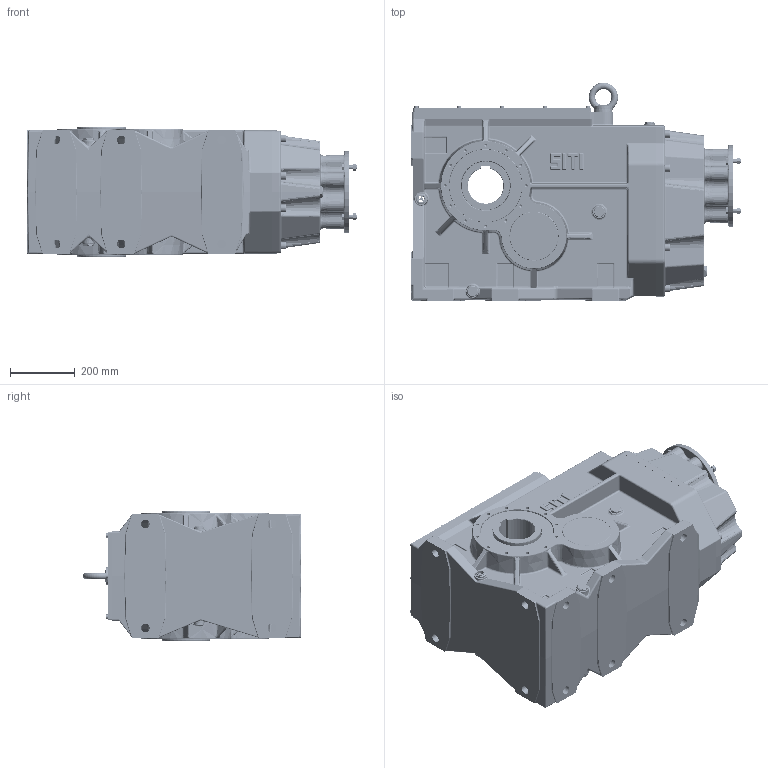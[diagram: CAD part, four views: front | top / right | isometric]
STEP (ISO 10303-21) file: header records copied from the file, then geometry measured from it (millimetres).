
FILE_DESCRIPTION((''),'2;1');
FILE_NAME('O:\Figurini\Figurini BH\3D\200\MBHGC 200 C GR 100-112 B5.stp','2013-05-27T14:11:06',('d.iannaccio'),(''),'Autodesk Inventor 2012','Autodesk Inventor 2012','');
FILE_SCHEMA(('AUTOMOTIVE_DESIGN { 1 0 10303 214 1 1 1 1 }'));
Length unit declared in the file: millimetre
Products named in the file (1): MBHGC_200 C GR 100-112 B5
Bounding box: 1016.5 x 672.85 x 400 mm (x, y, z)
Volume: 51082627 mm3; surface area: 5266971.8 mm2
Topology: 4 solids, 63 shells, 4095 faces, 9735 edges, 5831 vertices
Faces by surface type: cylinder 1265, plane 1197, bspline 671, torus 428, cone 371, sphere 163
Full cylindrical faces by diameter (mm): 2.4 x1, 6.647 x13, 8 x25, 9 x12, 10 x18, 10.106 x24, 10.5 x2, 12 x24, 13 x20, 13.835 x8, 14 x4, 16 x8, 17 x9, 18 x9, 19.6 x1, 20 x2, 20.5 x8, 20.752 x2, 22 x1, 24 x8, 24.117 x8, 25 x1, 26 x1, 26.5 x2, 27 x10, 31 x7, 31.9 x1, 40 x1, 42 x1, 46 x1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
Entity records: 141276 total; most frequent: CARTESIAN_POINT 49700, DIRECTION 18110, ORIENTED_EDGE 17566, EDGE_CURVE 8783, AXIS2_PLACEMENT_3D 7471, VERTEX_POINT 5549, EDGE_LOOP 4965, FACE_OUTER_BOUND 4095
